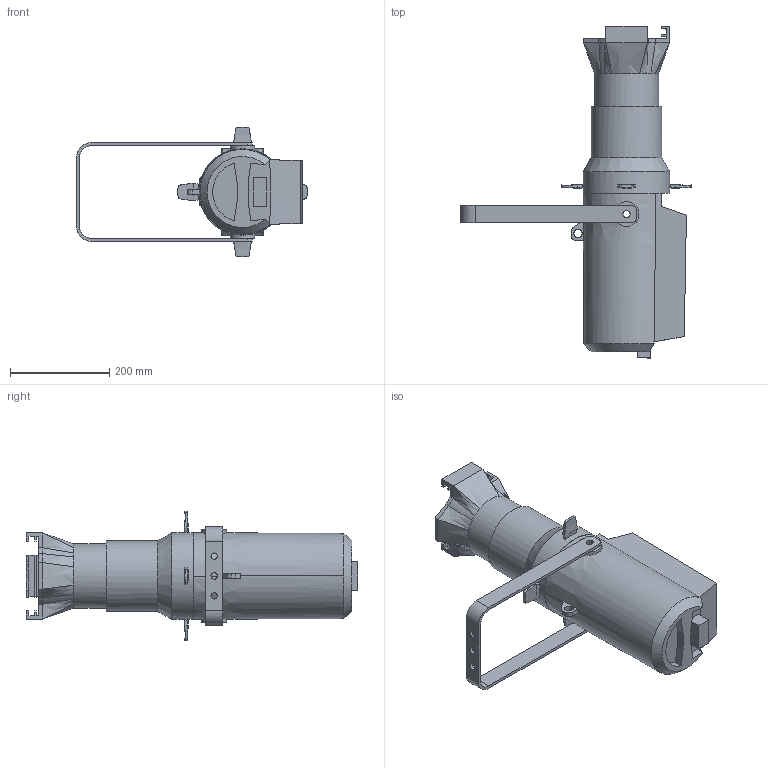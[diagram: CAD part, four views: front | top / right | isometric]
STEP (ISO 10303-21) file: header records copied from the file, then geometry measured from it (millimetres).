
FILE_DESCRIPTION(/* description */ (''),/* implementation_level */ '2;1');
FILE_NAME(/* name */ 'D:/dgooch/Documents/CADENG/PRO/Ovation E-260CW/90/3D/OVATIONE260CW_90.step',/* time_stamp */ '2020-03-09T12:11:49-04:00',/* author */ (''),/* organization */ (''),/* preprocessor_version */ 'ST-DEVELOPER v18',/* originating_system */ 'Autodesk Translation Framework v8.12.0.6',/* authorisation */ '');
FILE_SCHEMA (('AUTOMOTIVE_DESIGN { 1 0 10303 214 3 1 1 }'));
Length unit declared in the file: millimetre
Products named in the file (3): OVATIONE260CW (v4~recovered); Bracket; Main
Assembly tree (2 placements, depth 2):
  OVATIONE260CW (v4~recovered)
    Bracket
    Main
Bounding box: 466.21 x 670.12 x 262.15 mm (x, y, z)
Volume: 14324116.5 mm3; surface area: 541291.2 mm2
Topology: 2 solids, 2 shells, 202 faces, 537 edges, 353 vertices
Faces by surface type: plane 118, cylinder 32, bspline 28, cone 24
Full cylindrical faces by diameter (mm): 13 x3, 14.5 x3, 17 x1, 50 x2, 129.499 x1, 143 x1, 175 x1
Entity records: 28780 total; most frequent: CARTESIAN_POINT 23675, ORIENTED_EDGE 1090, DIRECTION 983, EDGE_CURVE 545, VERTEX_POINT 369, AXIS2_PLACEMENT_3D 351, LINE 281, VECTOR 281
